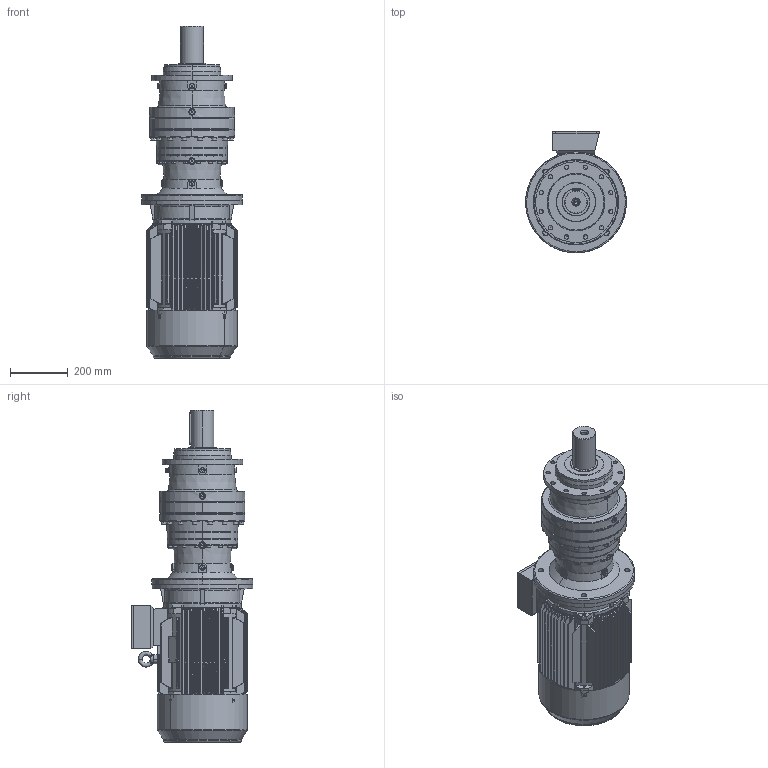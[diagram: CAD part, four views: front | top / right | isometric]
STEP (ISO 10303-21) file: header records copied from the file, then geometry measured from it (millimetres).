
FILE_DESCRIPTION (( 'STEP AP203' ), '1' );
FILE_NAME ('PVL-1902L-HS160L-4.STEP', '2019-05-24T08:08:03', ( '' ), ( '' ), 'SwSTEP 2.0', 'SolidWorks 2012', '' );
FILE_SCHEMA (( 'CONFIG_CONTROL_DESIGN' ));
Products named in the file (18): M3-160L-FF-B5; PVL-1902L-HS160L-4; M3-HS160L-FF-B5; +¦i-MN2-160_-++ñ; Y2-160-2ª¥--®+_-++ñ; Y2-160_shaft; +ª+§ªiY2-160ñ»ª­_-++ñ; Eyebolts GB_GB_FASTENER_SCREWS_FRS M12N; Y2-160L+À+¿(B5)_-++ñ; Y2-160-4Ý¾6Ý¾8-ª+---®+_-++ñ; FL5A_Varsayìlan; Y2-160-180ñ»ª­®+_-++ñ; PNL_1902L_0_0_A16_B5_ML25A_FL5A_0_0_0_0_0_0_0_0_0_0_0_M1; Y2-160ñ»ª­+¿_-++ñ; ML25A_Varsayìlan; EK1902L_Varsayìlan; 15160B5_Varsayìlan; P19_Varsayìlan
Assembly tree (17 placements, depth 5):
  PVL-1902L-HS160L-4
    PNL_1902L_0_0_A16_B5_ML25A_FL5A_0_0_0_0_0_0_0_0_0_0_0_M1
      P19_Varsayìlan
      15160B5_Varsayìlan
      ML25A_Varsayìlan
      EK1902L_Varsayìlan
      FL5A_Varsayìlan
    M3-HS160L-FF-B5
      M3-160L-FF-B5
        +ª+§ªiY2-160ñ»ª­_-++ñ
          Y2-160-180ñ»ª­®+_-++ñ
          Y2-160ñ»ª­+¿_-++ñ
        Y2-160-4Ý¾6Ý¾8-ª+---®+_-++ñ
        Y2-160L+À+¿(B5)_-++ñ
        Eyebolts GB_GB_FASTENER_SCREWS_FRS M12N
        Y2-160-2ª¥--®+_-++ñ
        +¦i-MN2-160_-++ñ
        Y2-160_shaft
Bounding box: 350 x 422 x 1151.5 mm (x, y, z)
Volume: 31155591.9 mm3; surface area: 3573345.2 mm2
Topology: 17 solids, 17 shells, 3010 faces, 8058 edges, 5147 vertices
Faces by surface type: plane 1264, cylinder 1122, bspline 298, cone 223, torus 63, sphere 40
Entity records: 136364 total; most frequent: CARTESIAN_POINT 62354, ORIENTED_EDGE 15892, DIRECTION 14052, EDGE_CURVE 7946, AXIS2_PLACEMENT_3D 5293, VERTEX_POINT 5132, LINE 3466, VECTOR 3466
